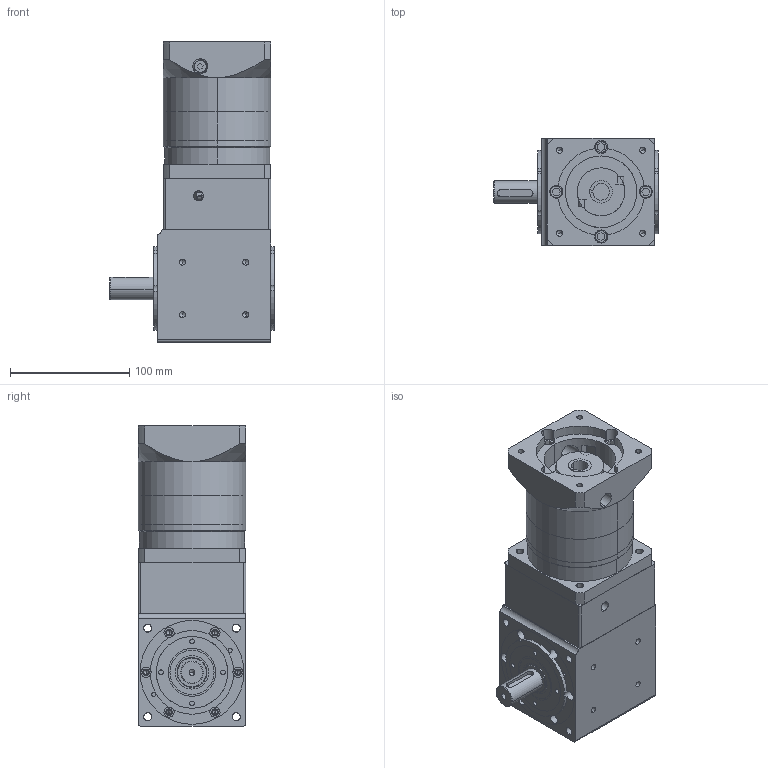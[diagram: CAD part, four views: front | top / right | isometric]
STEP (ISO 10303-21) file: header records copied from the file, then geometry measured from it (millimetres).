
FILE_DESCRIPTION (( 'STEP AP203' ), '1' );
FILE_NAME ('装配体5.STEP', '2024-04-02T08:32:15', ( '微软用户' ), ( '微软中国' ), 'SwSTEP 2.0', 'SolidWorks 2015', '' );
FILE_SCHEMA (( 'CONFIG_CONTROL_DESIGN' ));
Length unit declared in the file: millimetre
Products named in the file (15): PVFD090標杶; PVFDo9o眊极; PVFD090綴楊擘; deep groove ball bearings gb_Rolling bearings 6005 GB 276-94; PVFD090͹̨; tapered roller bearings gb_Rolling bearings 32005 GB 297-94; PVFD090-L2-()-P()-14-73-98.4-M5单轴（配86步进尺寸）; PLF090单级三维图（步进）; PVFD090蹟譫; PVFD090输入轴; 蚾饜极5; PVFD090怀堤粣; 25-40-7蚐猾; 19-14粣杶; 粣杶19-14
Assembly tree (18 placements, depth 3):
  蚾饜极5
    PVFD090-L2-()-P()-14-73-98.4-M5单轴（配86步进尺寸）
      PVFDo9o眊极
      PVFD090͹̨  x2
      deep groove ball bearings gb_Rolling bearings 6005 GB 276-94  x2
      tapered roller bearings gb_Rolling bearings 32005 GB 297-94
      PVFD090綴楊擘
      PVFD090標杶
      PVFD090蹟譫  x2
      PVFD090怀堤粣
      PVFD090输入轴
      25-40-7蚐猾  x2
      PLF090单级三维图（步进）
    粣杶19-14
      19-14粣杶
Bounding box: 138 x 90 x 251.5 mm (x, y, z)
Volume: 1553850.3 mm3; surface area: 340836.6 mm2
Topology: 18 solids, 18 shells, 1369 faces, 4039 edges, 2596 vertices
Faces by surface type: cylinder 509, plane 340, bspline 340, cone 180
Entity records: 47510 total; most frequent: CARTESIAN_POINT 17065, ORIENTED_EDGE 6540, DIRECTION 5553, EDGE_CURVE 3270, AXIS2_PLACEMENT_3D 2289, VERTEX_POINT 2141, EDGE_LOOP 1383, CIRCLE 1351
